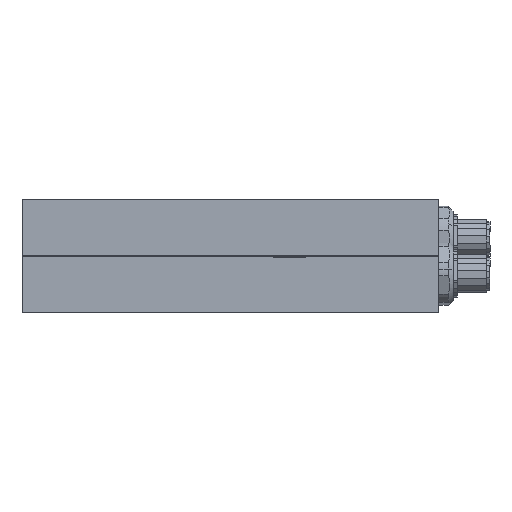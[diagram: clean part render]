
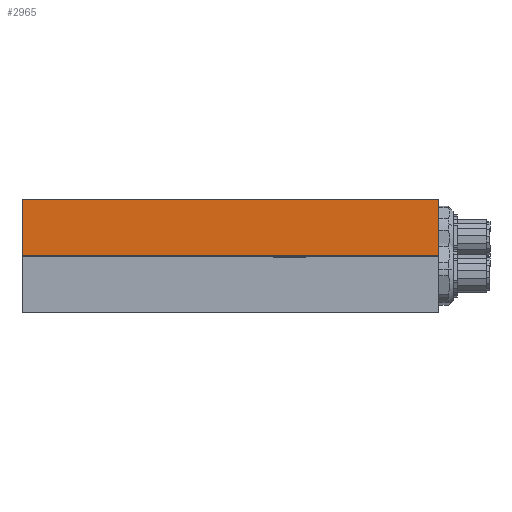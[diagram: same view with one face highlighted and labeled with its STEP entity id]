
A CAD part, front view. The second image highlights one B-rep face of the part: STEP entity #2965.
In plain terms, the highlighted planar face has unit normal (0, -1, 0).
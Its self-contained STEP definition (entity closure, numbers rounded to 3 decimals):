
#44 = CARTESIAN_POINT ( 'NONE',  ( -98.27, -34.893, -8.75 ) ) ;
#586 = EDGE_CURVE ( 'NONE', #4138, #10314, #2902, .T. ) ;
#714 = CARTESIAN_POINT ( 'NONE',  ( -98.27, -34.893, 8.75 ) ) ;
#847 = ORIENTED_EDGE ( 'NONE', *, *, #586, .F. ) ;
#979 = DIRECTION ( 'NONE',  ( 0., -1., 0. ) ) ;
#1141 = DIRECTION ( 'NONE',  ( 0., 0., 1. ) ) ;
#1567 = ORIENTED_EDGE ( 'NONE', *, *, #10769, .F. ) ;
#2231 = DIRECTION ( 'NONE',  ( 0., 0., -1. ) ) ;
#2532 = VECTOR ( 'NONE', #9444, 1000. ) ;
#2902 = LINE ( 'NONE', #12703, #2532 ) ;
#2965 = ADVANCED_FACE ( 'NONE', ( #13766 ), #4771, .T. ) ;
#4075 = VERTEX_POINT ( 'NONE', #6819 ) ;
#4138 = VERTEX_POINT ( 'NONE', #5916 ) ;
#4487 = VECTOR ( 'NONE', #1141, 1000. ) ;
#4511 = EDGE_CURVE ( 'NONE', #4075, #10314, #15306, .T. ) ;
#4771 = PLANE ( 'NONE',  #13123 ) ;
#5729 = VECTOR ( 'NONE', #12876, 1000. ) ;
#5916 = CARTESIAN_POINT ( 'NONE',  ( -98.27, -34.893, 26.25 ) ) ;
#5958 = ORIENTED_EDGE ( 'NONE', *, *, #4511, .T. ) ;
#6564 = ORIENTED_EDGE ( 'NONE', *, *, #12676, .T. ) ;
#6819 = CARTESIAN_POINT ( 'NONE',  ( 31.73, -34.893, 8.75 ) ) ;
#7000 = VERTEX_POINT ( 'NONE', #14437 ) ;
#8924 = VECTOR ( 'NONE', #12654, 1000. ) ;
#8964 = LINE ( 'NONE', #9702, #4487 ) ;
#9444 = DIRECTION ( 'NONE',  ( 1., 0., 0. ) ) ;
#9702 = CARTESIAN_POINT ( 'NONE',  ( -98.27, -34.893, -8.75 ) ) ;
#10314 = VERTEX_POINT ( 'NONE', #11545 ) ;
#10769 = EDGE_CURVE ( 'NONE', #7000, #4138, #8964, .T. ) ;
#11545 = CARTESIAN_POINT ( 'NONE',  ( 31.73, -34.893, 26.25 ) ) ;
#12654 = DIRECTION ( 'NONE',  ( 1., 0., 0. ) ) ;
#12676 = EDGE_CURVE ( 'NONE', #7000, #4075, #13803, .T. ) ;
#12703 = CARTESIAN_POINT ( 'NONE',  ( -98.27, -34.893, 26.25 ) ) ;
#12876 = DIRECTION ( 'NONE',  ( 0., 0., 1. ) ) ;
#13035 = CARTESIAN_POINT ( 'NONE',  ( 31.73, -34.893, -8.75 ) ) ;
#13123 = AXIS2_PLACEMENT_3D ( 'NONE', #44, #979, #2231 ) ;
#13766 = FACE_OUTER_BOUND ( 'NONE', #15161, .T. ) ;
#13803 = LINE ( 'NONE', #714, #8924 ) ;
#14437 = CARTESIAN_POINT ( 'NONE',  ( -98.27, -34.893, 8.75 ) ) ;
#15161 = EDGE_LOOP ( 'NONE', ( #1567, #6564, #5958, #847 ) ) ;
#15306 = LINE ( 'NONE', #13035, #5729 ) ;
